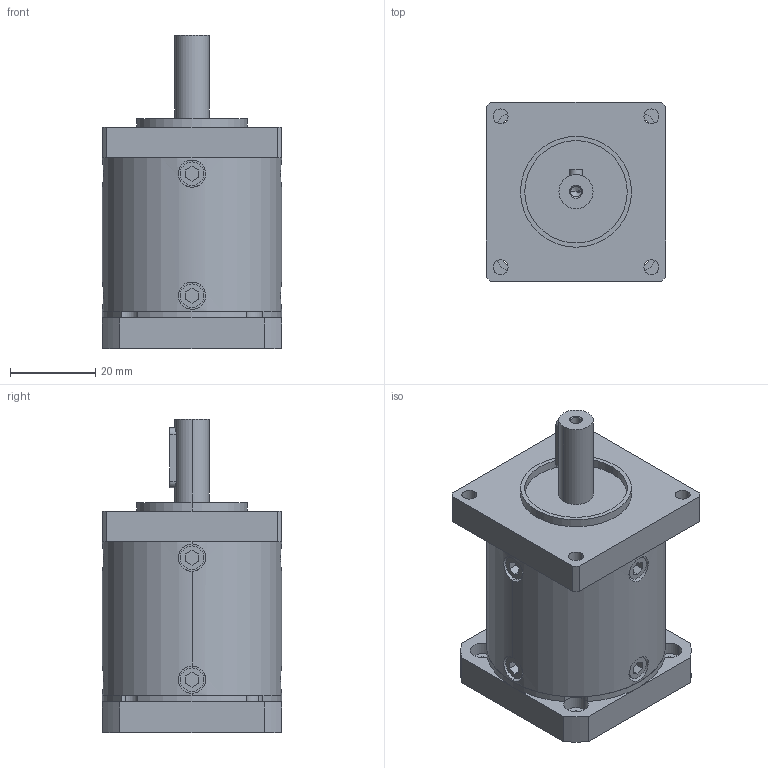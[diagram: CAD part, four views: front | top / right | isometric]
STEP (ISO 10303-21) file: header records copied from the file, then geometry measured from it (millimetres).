
FILE_DESCRIPTION (( 'STEP AP214' ), '1' );
FILE_NAME ('DLF42-L2-( )-J8.step', '2020-11-17T06:00:11', ( 'Moofasta' ), ( '' ), 'SwSTEP 2.0', 'SolidWorks 2020', '' );
FILE_SCHEMA (( 'AUTOMOTIVE_DESIGN' ));
Length unit declared in the file: millimetre
Products named in the file (1): DLF42-L2-(   )-J8
Bounding box: 42 x 42 x 73.4 mm (x, y, z)
Volume: 74055.7 mm3; surface area: 20198.6 mm2
Topology: 4 solids, 4 shells, 215 faces, 510 edges, 332 vertices
Faces by surface type: plane 106, cylinder 103, cone 6
Entity records: 6941 total; most frequent: CARTESIAN_POINT 1691, DIRECTION 1104, ORIENTED_EDGE 1012, EDGE_CURVE 506, AXIS2_PLACEMENT_3D 405, VERTEX_POINT 332, VECTOR 294, LINE 294
